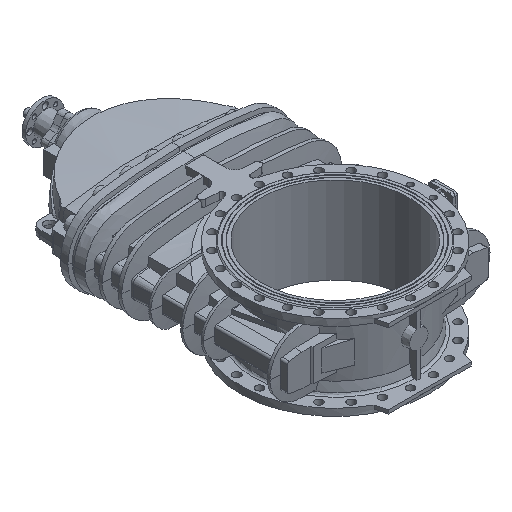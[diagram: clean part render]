
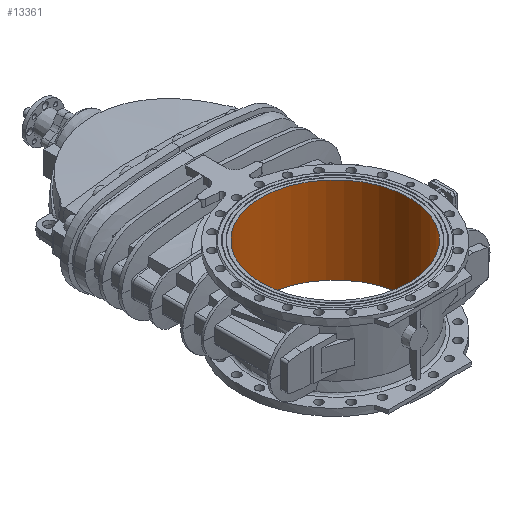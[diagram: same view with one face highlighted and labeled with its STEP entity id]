
A CAD part, isometric view. The second image highlights one B-rep face of the part: STEP entity #13361.
In plain terms, the highlighted cylindrical face has radius 400 mm (diameter 800 mm), a full revolution.
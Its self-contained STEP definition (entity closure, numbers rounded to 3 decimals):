
#2347 = DIRECTION ( 'NONE',  ( 0., 0., -1. ) ) ;
#2348 = CARTESIAN_POINT ( 'NONE',  ( 0., 0., 1366.371 ) ) ;
#2349 = DIRECTION ( 'NONE',  ( -1., 0., 0. ) ) ;
#7737 = CYLINDRICAL_SURFACE ( 'NONE', #18145, 400. ) ;
#7771 = FACE_OUTER_BOUND ( 'NONE', #9678, .T. ) ;
#7790 = FACE_OUTER_BOUND ( 'NONE', #9660, .T. ) ;
#9660 = EDGE_LOOP ( 'NONE', ( #41807 ) ) ;
#9678 = EDGE_LOOP ( 'NONE', ( #41808 ) ) ;
#13361 = ADVANCED_FACE ( 'NONE', ( #7771, #7790 ), #7737, .F. ) ;
#13550 = VERTEX_POINT ( 'NONE', #38633 ) ;
#13574 = VERTEX_POINT ( 'NONE', #38685 ) ;
#15002 = CARTESIAN_POINT ( 'NONE',  ( 0., 0., 235. ) ) ;
#15003 = DIRECTION ( 'NONE',  ( 0., 0., 1. ) ) ;
#15004 = DIRECTION ( 'NONE',  ( -1., 0., 0. ) ) ;
#17561 = AXIS2_PLACEMENT_3D ( 'NONE', #23568, #23569, #23570 ) ;
#17753 = AXIS2_PLACEMENT_3D ( 'NONE', #15002, #15003, #15004 ) ;
#18145 = AXIS2_PLACEMENT_3D ( 'NONE', #2348, #2347, #2349 ) ;
#18369 = EDGE_CURVE ( 'NONE', #13550, #13550, #35970, .T. ) ;
#19042 = EDGE_CURVE ( 'NONE', #13574, #13574, #22827, .T. ) ;
#22827 = CIRCLE ( 'NONE', #17561, 400. ) ;
#23568 = CARTESIAN_POINT ( 'NONE',  ( 0., 0., -235. ) ) ;
#23569 = DIRECTION ( 'NONE',  ( 0., 0., -1. ) ) ;
#23570 = DIRECTION ( 'NONE',  ( -1., 0., 0. ) ) ;
#35970 = CIRCLE ( 'NONE', #17753, 400. ) ;
#38633 = CARTESIAN_POINT ( 'NONE',  ( -400., 0., 235. ) ) ;
#38685 = CARTESIAN_POINT ( 'NONE',  ( -400., 0., -235. ) ) ;
#41807 = ORIENTED_EDGE ( 'NONE', *, *, #19042, .T. ) ;
#41808 = ORIENTED_EDGE ( 'NONE', *, *, #18369, .T. ) ;
